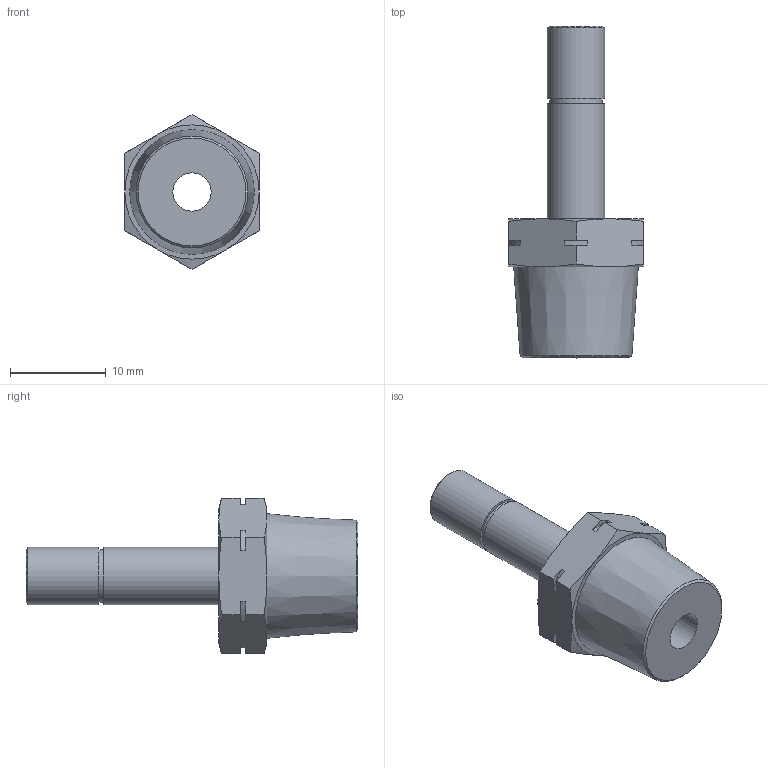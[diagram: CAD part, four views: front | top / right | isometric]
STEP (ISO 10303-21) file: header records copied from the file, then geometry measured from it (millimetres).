
FILE_DESCRIPTION(/* description */ (''),/* implementation_level */ '2;1');
FILE_NAME(/* name */ 'LXH15 0006 N2.stp',/* time_stamp */ '2026-04-28T16:18:47+02:00',/* author */ ('freju'),/* organization */ (''),/* preprocessor_version */ 'ST-DEVELOPER v20.1',/* originating_system */ 'Autodesk Inventor 2026',/* authorisation */ '');
FILE_SCHEMA (('AUTOMOTIVE_DESIGN { 1 0 10303 214 3 1 1 }'));
Length unit declared in the file: millimetre
Products named in the file (1): LXH15 0006 B2
Bounding box: 14 x 34.6 x 16.17 mm (x, y, z)
Volume: 2106.6 mm3; surface area: 1713 mm2
Topology: 1 solids, 1 shells, 49 faces, 117 edges, 74 vertices
Faces by surface type: plane 24, cone 15, cylinder 10
Full cylindrical faces by diameter (mm): 4 x1, 5.5 x1, 6 x2
Entity records: 1436 total; most frequent: CARTESIAN_POINT 289, ORIENTED_EDGE 234, DIRECTION 231, EDGE_CURVE 117, AXIS2_PLACEMENT_3D 88, VERTEX_POINT 74, EDGE_LOOP 55, LINE 55
